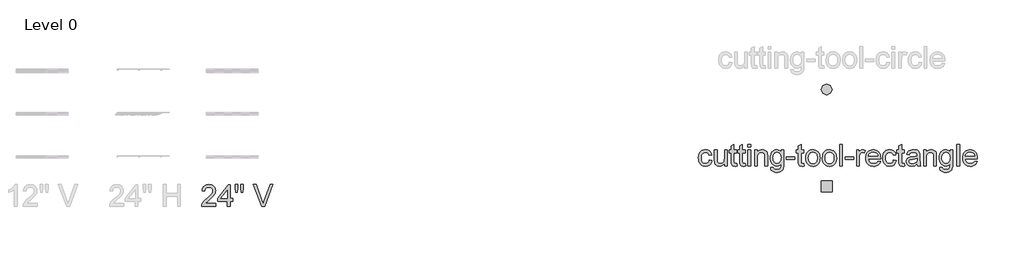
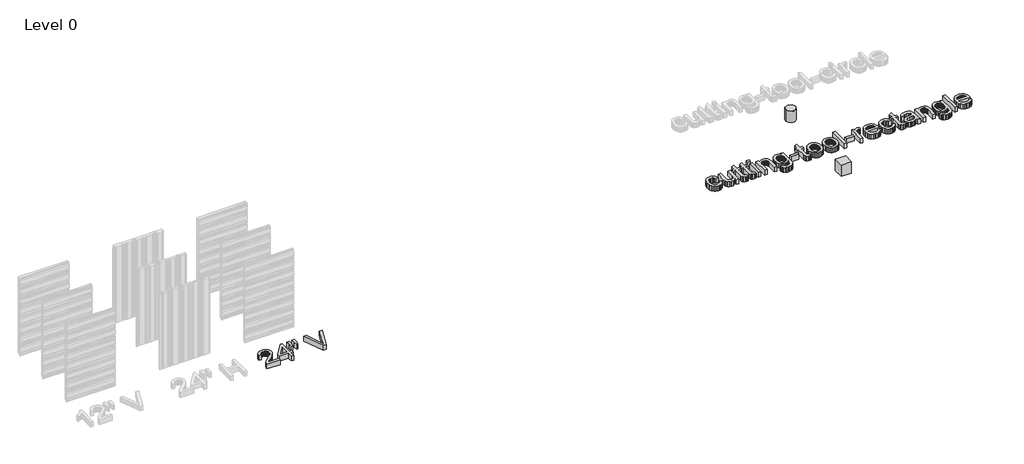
# One storey, part 2 of 3: 4 proxies.
"""IFC4 building model written with IfcOpenShell, lengths in millimetres."""

import ifcopenshell
import ifcopenshell.guid

model = None  # the IFC model being written
_history = None  # IfcOwnerHistory: only IFC2X3 demands one
_inside = {}  # id of a spatial element -> (the spatial element, [elements in it])
_under = {}  # id of a project, library or spatial element -> (it, [spatial elements below it])
_declared = {}  # id of a project -> (the project, [libraries it declares])
_typed = {}  # id of a type object -> (the type object, [elements of that type])
_made_of = {}  # id of a material, layer set ... -> (it, [elements and type objects made of it])


def new_model(schema):
    """Start an empty IFC model of exactly this schema.

    Asked for "IFC4X3", IfcOpenShell would pick the latest addendum, in which some entities
    have other attributes; the version numbers below select the first issue.
    IFC2X3 requires an IfcOwnerHistory on every rooted entity: one is made here for all.
    """
    global model, _history
    if schema == "IFC4X3":
        model = ifcopenshell.file(schema_version=(4, 3, 0, 0))
    else:
        model = ifcopenshell.file(schema=schema)
    _inside.clear()
    _under.clear()
    _declared.clear()
    _typed.clear()
    _made_of.clear()
    _history = None
    if model.schema == "IFC2X3":
        org = make("IfcOrganization", Name="unknown")
        user = make(
            "IfcPersonAndOrganization",
            ThePerson=make("IfcPerson", FamilyName="unknown"),
            TheOrganization=org,
        )
        app = make(
            "IfcApplication",
            ApplicationDeveloper=org,
            Version="unknown",
            ApplicationFullName="unknown",
            ApplicationIdentifier="unknown",
        )
        _history = make(
            "IfcOwnerHistory",
            OwningUser=user,
            OwningApplication=app,
            ChangeAction="ADDED",
            CreationDate=0,
        )
    return model


def make(cls, **values):
    """One entity of the class cls with the attributes given. An attribute that is None is left unset."""
    return model.create_entity(
        cls, **{name: value for name, value in values.items() if value is not None}
    )


def rooted(cls, **values):
    """An entity with a GlobalId (a new one), such as an element, a storey or a relation."""
    return make(cls, GlobalId=ifcopenshell.guid.new(), OwnerHistory=_history, **values)


def si_unit(unit_type, name, prefix=None):
    """IfcSIUnit, for example si_unit("LENGTHUNIT", "METRE", prefix="MILLI")."""
    return make("IfcSIUnit", UnitType=unit_type, Prefix=prefix, Name=name)


def assignment(units):
    """IfcUnitAssignment: the units of a project."""
    return None if units is None else make("IfcUnitAssignment", Units=units)


def point(xyz):
    """IfcCartesianPoint."""
    return None if xyz is None else make("IfcCartesianPoint", Coordinates=xyz)


def direction(xyz):
    """IfcDirection."""
    return None if xyz is None else make("IfcDirection", DirectionRatios=xyz)


def frame(location, z_axis=None, x_axis=None):
    """IfcAxis2Placement3D, a coordinate frame: its origin and axes. An axis left out is left unset."""
    return make(
        "IfcAxis2Placement3D",
        Location=point(location),
        Axis=direction(z_axis),
        RefDirection=direction(x_axis),
    )


def frame_2d(location, x_axis=None):
    """IfcAxis2Placement2D, a coordinate frame in the plane: its origin and x axis."""
    return make(
        "IfcAxis2Placement2D", Location=point(location), RefDirection=direction(x_axis)
    )


def origin():
    """The frame at (0, 0, 0) with its axes left unset."""
    return frame((0.0, 0.0, 0.0))


def origin_with_axes():
    """The frame at (0, 0, 0) with the z axis (0, 0, 1) and the x axis (1, 0, 0) written out."""
    return frame((0.0, 0.0, 0.0), z_axis=(0.0, 0.0, 1.0), x_axis=(1.0, 0.0, 0.0))


def origin_2d():
    """The frame at (0, 0) in the plane with its x axis left unset."""
    return frame_2d((0.0, 0.0))


def place(relative_to, where):
    """IfcLocalPlacement: puts the frame where relative to a parent placement (None: the world)."""
    return make(
        "IfcLocalPlacement", PlacementRelTo=relative_to, RelativePlacement=where
    )


def context(
    kind, dimensions, precision=None, world=None, true_north=None, identifier=None
):
    """IfcGeometricRepresentationContext, for example the 3D "Model" context."""
    return make(
        "IfcGeometricRepresentationContext",
        ContextIdentifier=identifier,
        ContextType=kind,
        CoordinateSpaceDimension=dimensions,
        Precision=precision,
        WorldCoordinateSystem=world,
        TrueNorth=true_north,
    )


def project(units=None, contexts=None):
    """IfcProject with its units and contexts."""
    return rooted(
        "IfcProject",
        Name="project",
        RepresentationContexts=contexts,
        UnitsInContext=assignment(units),
    )


def spatial(cls, under=None, at=None, **own):
    """A site, building, storey or space (cls), placed at a placement, below another one or the project."""
    s = rooted(cls, ObjectPlacement=at, **own)
    if under is not None:
        _under.setdefault(under.id(), (under, []))[1].append(s)
    return s


def polyline(points):
    """IfcPolyline through the points."""
    return make("IfcPolyline", Points=[point(p) for p in points])


def circle_curve(where, radius):
    """IfcCircle in the frame where."""
    return make("IfcCircle", Position=where, Radius=radius)


def trimmed(basis, trim1, trim2, sense, master):
    """IfcTrimmedCurve: the piece of a basis curve between two trims."""
    return make(
        "IfcTrimmedCurve",
        BasisCurve=basis,
        Trim1=trim1,
        Trim2=trim2,
        SenseAgreement=sense,
        MasterRepresentation=master,
    )


def segment(curve, same_sense, transition):
    """IfcCompositeCurveSegment."""
    return make(
        "IfcCompositeCurveSegment",
        Transition=transition,
        SameSense=same_sense,
        ParentCurve=curve,
    )


def composite_curve(segments, self_intersect=None):
    """IfcCompositeCurve: segments joined end to end."""
    return make("IfcCompositeCurve", Segments=segments, SelfIntersect=self_intersect)


def outline(outer, holes=None, kind="AREA"):
    """IfcArbitraryClosedProfileDef: a profile drawn as a closed curve; with holes, ...WithVoids."""
    if holes is None:
        return make("IfcArbitraryClosedProfileDef", ProfileType=kind, OuterCurve=outer)
    return make(
        "IfcArbitraryProfileDefWithVoids",
        ProfileType=kind,
        OuterCurve=outer,
        InnerCurves=holes,
    )


def extrude(swept, where, along, depth):
    """IfcExtrudedAreaSolid: the profile swept, set in the frame where, extruded along a direction by depth."""
    return make(
        "IfcExtrudedAreaSolid",
        SweptArea=swept,
        Position=where,
        ExtrudedDirection=direction(along),
        Depth=depth,
    )


def shape(context_of_items, identifier, shape_type, items):
    """IfcShapeRepresentation: the items that make up one representation, for example the "Body"."""
    return make(
        "IfcShapeRepresentation",
        ContextOfItems=context_of_items,
        RepresentationIdentifier=identifier,
        RepresentationType=shape_type,
        Items=items,
    )


def source(mapping_origin, context_of_items, identifier, shape_type, items):
    """IfcRepresentationMap: a shape defined once, which mapped items show again and again."""
    return make(
        "IfcRepresentationMap",
        MappingOrigin=mapping_origin,
        MappedRepresentation=shape(context_of_items, identifier, shape_type, items),
    )


def transform(
    local_origin,
    x_axis=None,
    y_axis=None,
    z_axis=None,
    scale=None,
    scale2=None,
    scale3=None,
    uniform=True,
):
    """IfcCartesianTransformationOperator3D, or its non-uniform kind. x_axis, y_axis, z_axis: its Axis1, 2, 3."""
    if uniform:
        return make(
            "IfcCartesianTransformationOperator3D",
            Axis1=direction(x_axis),
            Axis2=direction(y_axis),
            LocalOrigin=point(local_origin),
            Scale=scale,
            Axis3=direction(z_axis),
        )
    return make(
        "IfcCartesianTransformationOperator3DnonUniform",
        Axis1=direction(x_axis),
        Axis2=direction(y_axis),
        LocalOrigin=point(local_origin),
        Scale=scale,
        Axis3=direction(z_axis),
        Scale2=scale2,
        Scale3=scale3,
    )


def mapped(mapping_source, mapping_target):
    """IfcMappedItem: shows the shape of a source again, moved by a transform."""
    return make(
        "IfcMappedItem", MappingSource=mapping_source, MappingTarget=mapping_target
    )


def made_of(thing, what):
    """Note that an element or type object is made of a material, layer set ...; save() writes the relation."""
    if what is not None:
        _made_of.setdefault(what.id(), (what, []))[1].append(thing)
    return thing


def element(
    cls,
    number,
    at=None,
    inside=None,
    cuts=None,
    type_object=None,
    material=None,
    context=None,
    identifier="Body",
    shape_type=None,
    held_by="IfcProductDefinitionShape",
    body=None,
    shapes=None,
    **own,
):
    """One element of the class cls, such as IfcWall. Its Tag is "e" and its number.

    at: its placement. inside: the storey or other place that contains it. cuts: it is an
    opening in that element (IfcRelVoidsElement). A single representation is given by context,
    identifier, shape_type and body (its items); several are given by shapes. held_by: the class
    of the entity that holds the representations. save() writes the other relations.
    """
    e = rooted(cls, Tag="e%d" % number, ObjectPlacement=at, **own)
    if body is not None:
        shapes = [shape(context, identifier, shape_type, body)]
    if shapes is not None:
        e.Representation = make(held_by, Representations=shapes)
    if inside is not None:
        _inside.setdefault(inside.id(), (inside, []))[1].append(e)
    if cuts is not None:
        rooted(
            "IfcRelVoidsElement", RelatingBuildingElement=cuts, RelatedOpeningElement=e
        )
    if type_object is not None:
        _typed.setdefault(type_object.id(), (type_object, []))[1].append(e)
    return made_of(e, material)


def aggregate(whole, parts):
    """IfcRelAggregates: a whole, such as a stair, and the parts it consists of."""
    return rooted("IfcRelAggregates", RelatingObject=whole, RelatedObjects=parts)


def save(model, path):
    """Write the relations noted so far, then the file.

    IfcRelAggregates (storeys below a building ...), IfcRelContainedInSpatialStructure (elements
    in a storey), IfcRelDefinesByType, IfcRelAssociatesMaterial and IfcRelDeclares: one each for
    every whole, place, type object, material and project.
    """
    for whole, parts in _under.values():
        aggregate(whole, parts)
    for where, things in _inside.values():
        rooted(
            "IfcRelContainedInSpatialStructure",
            RelatedElements=things,
            RelatingStructure=where,
        )
    for kind, things in _typed.values():
        rooted("IfcRelDefinesByType", RelatedObjects=things, RelatingType=kind)
    for what, things in _made_of.values():
        rooted("IfcRelAssociatesMaterial", RelatedObjects=things, RelatingMaterial=what)
    for by, libraries in _declared.values():
        rooted("IfcRelDeclares", RelatingContext=by, RelatedDefinitions=libraries)
    model.write(path)


def kingspan_ks_cutting_tool_circle_cutting_tool_circle_f6fe257a(model_context):
    return source(origin(), model_context, "Body", "SweptSolid", [
        extrude(outline(composite_curve([segment(trimmed(circle_curve(origin_2d(), 152.4), [point((-152.4, 0.0))], [point((152.4, 0.0))], False, "CARTESIAN"), True, "CONTINUOUS"), segment(trimmed(circle_curve(origin_2d(), 152.4), [point((152.4, 0.0))], [point((-152.4, 0.0))], False, "CARTESIAN"), True, "CONTINUOUS")], self_intersect=False)), frame((0.0, 0.0, -254.0), z_axis=(0.0, 0.0, 1.0), x_axis=(1.0, 0.0, 0.0)), (0.0, 0.0, 1.0), 355.6),
    ])


def kingspan_ks_cutting_tool_rectangle_cutting_tool_rectangle_f435e5aa(model_context):
    return source(origin(), model_context, "Body", "SweptSolid", [
        extrude(outline(polyline([(152.4, 152.4), (152.4, -152.4), (-152.4, -152.4), (-152.4, 152.4), (152.4, 152.4)])), frame((0.0, 0.0, -254.0), z_axis=(0.0, 0.0, 1.0), x_axis=(1.0, 0.0, 0.0)), (0.0, 0.0, 1.0), 355.6),
    ])


model = new_model("IFC4")

# Units and contexts
model_context = context("Model", 3, world=origin())
ifc_project = project(units=[si_unit("LENGTHUNIT", "METRE", prefix="MILLI")], contexts=[model_context])

# Site, building, storey
site = spatial("IfcSite", under=ifc_project)
building = spatial("IfcBuilding", under=site)
storey = spatial("IfcBuildingStorey", under=building, Name="Level 0", Elevation=0.0)

# Proxies
placement = place(None, origin())
element("IfcBuildingElementProxy", 1, Name="24\" Arial", ObjectType="24\" Arial", at=placement, inside=storey, context=model_context, shape_type="SweptSolid", body=[
    extrude(outline(polyline([(-22407.9539818, 9485.5823155), (-22407.9539818, 9409.440542), (-22807.6982928, 9409.440542), (-22806.0252557, 9436.2463129), (-22799.5190007, 9461.9367257), (-22780.7438075, 9502.9633112), (-22753.2688218, 9542.7630029), (-22713.5248981, 9584.4216246), (-22657.9428905, 9631.0250001), (-22575.7781838, 9704.0065926), (-22526.4793597, 9757.8783845), (-22512.100536, 9779.8881159), (-22501.8299477, 9801.6004185), (-22495.6675947, 9823.0152923), (-22493.613477, 9844.1327373), (-22495.5514115, 9864.0000519), (-22501.3652152, 9882.259392), (-22511.0548879, 9898.9107576), (-22524.6204297, 9913.9541488), (-22541.3089739, 9926.4136272), (-22560.3676539, 9935.3132547), (-22581.7964697, 9940.6530311), (-22605.5954213, 9942.4329566), (-22630.6677399, 9940.6948571), (-22653.0910832, 9935.4805584), (-22672.8654513, 9926.7900605), (-22689.990844, 9914.6233636), (-22703.84452, 9899.3894321), (-22713.8037376, 9881.4972307), (-22719.8684968, 9860.9467593), (-22722.0387975, 9837.7380181), (-22798.1805711, 9847.2557397), (-22791.6324901, 9886.562815), (-22779.721396, 9920.906547), (-22762.4472888, 9950.286936), (-22739.8101685, 9974.7039817), (-22712.3305355, 9993.8974342), (-22680.5288903, 10007.6070431), (-22644.4052327, 10015.8328084), (-22603.9595628, 10018.5747302), (-22563.1514016, 10015.5260849), (-22526.8325564, 10006.3801492), (-22495.0030272, 9991.1369231), (-22467.662814, 9969.7964065), (-22445.7042031, 9943.93869), (-22430.0194811, 9915.143864), (-22420.6086479, 9883.4119286), (-22417.4717035, 9848.7428838), (-22420.8549561, 9812.3264447), (-22431.004714, 9776.5420419), (-22449.0177459, 9740.1441921), (-22475.9908204, 9701.8874124), (-22518.9878717, 9656.2135018), (-22585.0728339, 9597.5642598), (-22672.6656163, 9524.3224171), (-22707.018643, 9485.5823155), (-22407.9539818, 9485.5823155)])), origin_with_axes(), (0.0, 0.0, 1.0), 152.4),
    extrude(outline(polyline([(-22084.3514443, 9409.440542), (-22084.3514443, 9552.2063674), (-22360.3653733, 9552.2063674), (-22360.3653733, 9628.3481409), (-22065.316001, 10009.0570085), (-22008.2096708, 10009.0570085), (-22008.2096708, 9628.3481409), (-21932.0678973, 9628.3481409), (-21932.0678973, 9552.2063674), (-22008.2096708, 9552.2063674), (-22008.2096708, 9409.440542), (-22084.3514443, 9409.440542)]), holes=[polyline([(-22084.3514443, 9628.3481409), (-22084.3514443, 9863.6143239), (-22266.6753005, 9628.3481409), (-22084.3514443, 9628.3481409)])]), origin_with_axes(), (0.0, 0.0, 1.0), 152.4),
    extrude(outline(polyline([(-21846.8545453, 9799.6671313), (-21865.4438455, 9917.3002228), (-21865.4438455, 10018.5747302), (-21789.302072, 10018.5747302), (-21789.302072, 9917.3002228), (-21805.9580849, 9799.6671313), (-21846.8545453, 9799.6671313)])), origin_with_axes(), (0.0, 0.0, 1.0), 152.4),
    extrude(outline(polyline([(-21695.0171415, 9799.6671313), (-21713.1602984, 9917.3002228), (-21713.1602984, 10018.5747302), (-21637.0185249, 10018.5747302), (-21637.0185249, 9917.3002228), (-21654.8642531, 9799.6671313), (-21695.0171415, 9799.6671313)])), origin_with_axes(), (0.0, 0.0, 1.0), 152.4),
    extrude(outline(polyline([(-21114.4361184, 9409.440542), (-21356.8405927, 10018.5747302), (-21275.3451007, 10018.5747302), (-21113.0976888, 9579.7185316), (-21080.2318061, 9480.8234547), (-21047.8120666, 9579.7185316), (-20885.1185114, 10018.5747302), (-20803.6230195, 10018.5747302), (-21035.7662001, 9409.440542), (-21114.4361184, 9409.440542)])), origin_with_axes(), (0.0, 0.0, 1.0), 152.4),
])
element("IfcBuildingElementProxy", 2, Name="24\" Arial", ObjectType="24\" Arial", at=placement, inside=storey, context=model_context, shape_type="SweptSolid", body=[
    extrude(outline(polyline([(-8540.2972792, 10707.5765962), (-8464.1555057, 10698.0588745), (-8472.4370389, 10662.1304046), (-8485.3844865, 10630.338054), (-8502.9978484, 10602.6818226), (-8525.2771246, 10579.1617106), (-8551.2835556, 10560.3911647), (-8580.0783816, 10546.983632), (-8611.6616026, 10538.9391123), (-8646.0332186, 10536.2576058), (-8688.7374884, 10539.9987025), (-8727.0267994, 10551.2219924), (-8760.9011517, 10569.9274757), (-8790.3605451, 10596.1151524), (-8814.2059699, 10629.2924058), (-8831.2384162, 10668.9666197), (-8841.457884, 10715.1377941), (-8844.8643733, 10767.8059288), (-8839.0459223, 10835.5639279), (-8831.7728586, 10866.0550275), (-8821.5905694, 10894.2875272), (-8808.4293449, 10919.6944532), (-8792.2194752, 10941.7088319), (-8772.9609602, 10960.3306634), (-8750.6538, 10975.5599475), (-8726.3064641, 10987.4013317), (-8700.927422, 10995.8594633), (-8674.5166738, 11000.9343423), (-8647.0742194, 11002.6259686), (-8613.2928137, 11000.3023061), (-8582.7366515, 10993.3313185), (-8555.4057329, 10981.7130059), (-8531.3000579, 10965.4473682), (-8510.8285911, 10944.9061915), (-8494.4002971, 10920.4612618), (-8482.0151758, 10892.112579), (-8473.6732274, 10859.8601432), (-8549.8150009, 10850.3424215), (-8563.6268509, 10883.561501), (-8585.1346712, 10907.3743945), (-8613.1487466, 10921.7067449), (-8646.4793618, 10926.4841951), (-8672.3510203, 10924.1326486), (-8695.6852394, 10917.0780092), (-8716.4820189, 10905.3202768), (-8734.741359, 10888.8594515), (-8749.6081518, 10867.3144526), (-8760.2272896, 10840.3041995), (-8766.5987722, 10807.828692), (-8768.7225997, 10769.8879304), (-8766.6452454, 10731.3755478), (-8760.4131826, 10698.523607), (-8750.0264111, 10671.3321082), (-8735.484931, 10649.8010513), (-8717.5880823, 10633.4378198), (-8697.1352048, 10621.7497973), (-8674.1262985, 10614.7369838), (-8648.5613634, 10612.3993793), (-8609.1334577, 10618.2364196), (-8592.0824222, 10625.5327199), (-8576.8066647, 10635.7475403), (-8563.7337394, 10648.9924167), (-8553.2912, 10665.3788848), (-8545.4790466, 10684.9069446), (-8540.2972792, 10707.5765962)])), origin_with_axes(), (0.0, 0.0, 1.0), 152.4),
    extrude(outline(polyline([(-8111.9998032, 10545.7753275), (-8111.9998032, 10622.660673), (-8139.549146, 10584.8593311), (-8171.6342781, 10557.8583726), (-8208.2551995, 10541.6577975), (-8249.41191, 10536.2576058), (-8286.4975639, 10540.049823), (-8321.0178943, 10551.4264747), (-8349.980024, 10568.5286309), (-8370.3910756, 10589.4973615), (-8384.1285684, 10614.9647027), (-8393.0700218, 10645.5626908), (-8397.5314538, 10716.3507459), (-8397.5314538, 10993.1082469), (-8321.3896803, 10993.1082469), (-8321.3896803, 10752.1909166), (-8320.2371437, 10704.0074506), (-8316.7795339, 10674.5619991), (-8305.6817217, 10648.667104), (-8286.6648676, 10628.9810351), (-8260.9930441, 10616.5447932), (-8229.9303235, 10612.3993793), (-8197.0830301, 10616.6377397), (-8166.3549169, 10629.3528211), (-8141.0177007, 10649.3734974), (-8124.3430985, 10675.5286427), (-8115.085627, 10711.3502241), (-8111.9998032, 10760.3702087), (-8111.9998032, 10993.1082469), (-8035.8580296, 10993.1082469), (-8035.8580296, 10545.7753275), (-8111.9998032, 10545.7753275)])), origin_with_axes(), (0.0, 0.0, 1.0), 152.4),
    extrude(outline(polyline([(-7769.3618223, 10609.2763769), (-7759.8441006, 10543.5446115), (-7789.9959455, 10538.0793572), (-7816.8017164, 10536.2576058), (-7853.3482805, 10539.4177868), (-7880.6001946, 10548.8983299), (-7899.8587096, 10563.5095198), (-7912.4250765, 10582.0616414), (-7919.3402961, 10613.9237019), (-7921.6453694, 10668.4647086), (-7921.6453694, 10916.9664734), (-7978.7516995, 10916.9664734), (-7978.7516995, 10993.1082469), (-7921.6453694, 10993.1082469), (-7921.6453694, 11101.8184743), (-7845.5035958, 11146.5815091), (-7845.5035958, 10993.1082469), (-7769.3618223, 10993.1082469), (-7769.3618223, 10916.9664734), (-7845.5035958, 10916.9664734), (-7845.5035958, 10670.6954247), (-7841.488307, 10631.4348227), (-7828.4757969, 10617.5300262), (-7817.4895205, 10613.682041), (-7802.5251338, 10612.3993793), (-7769.3618223, 10609.2763769)])), origin_with_axes(), (0.0, 0.0, 1.0), 152.4),
    extrude(outline(polyline([(-7531.4187801, 10609.2763769), (-7521.9010584, 10543.5446115), (-7552.0529033, 10538.0793572), (-7578.8586741, 10536.2576058), (-7615.4052383, 10539.4177868), (-7642.6571523, 10548.8983299), (-7661.9156673, 10563.5095198), (-7674.4820342, 10582.0616414), (-7681.3972539, 10613.9237019), (-7683.7023271, 10668.4647086), (-7683.7023271, 10916.9664734), (-7740.8086573, 10916.9664734), (-7740.8086573, 10993.1082469), (-7683.7023271, 10993.1082469), (-7683.7023271, 11101.8184743), (-7607.5605536, 11146.5815091), (-7607.5605536, 10993.1082469), (-7531.4187801, 10993.1082469), (-7531.4187801, 10916.9664734), (-7607.5605536, 10916.9664734), (-7607.5605536, 10670.6954247), (-7603.5452648, 10631.4348227), (-7590.5327546, 10617.5300262), (-7579.5464782, 10613.682041), (-7564.5820916, 10612.3993793), (-7531.4187801, 10609.2763769)])), origin_with_axes(), (0.0, 0.0, 1.0), 152.4),
    extrude(outline(polyline([(-7455.2770066, 11078.7677421), (-7455.2770066, 11154.9095156), (-7379.1352331, 11154.9095156), (-7379.1352331, 11078.7677421), (-7455.2770066, 11078.7677421)])), origin_with_axes(), (0.0, 0.0, 1.0), 152.4),
    extrude(outline(polyline([(-7455.2770066, 10545.7753275), (-7455.2770066, 10993.1082469), (-7379.1352331, 10993.1082469), (-7379.1352331, 10545.7753275), (-7455.2770066, 10545.7753275)])), origin_with_axes(), (0.0, 0.0, 1.0), 152.4),
    extrude(outline(polyline([(-7264.9225728, 10545.7753275), (-7264.9225728, 10993.1082469), (-7188.7807993, 10993.1082469), (-7188.7807993, 10930.6481983), (-7162.3282251, 10962.1384728), (-7130.5591111, 10984.631526), (-7093.4734573, 10998.1273579), (-7051.0712636, 11002.6259686), (-7013.5394665, 10999.001055), (-6979.1678505, 10988.1263144), (-6950.5031496, 10971.3587657), (-6930.092098, 10950.0554277), (-6916.2430694, 10924.2720683), (-6907.2644374, 10894.0644556), (-6903.2491486, 10820.4508269), (-6903.2491486, 10545.7753275), (-6979.3909221, 10545.7753275), (-6979.3909221, 10810.1895332), (-6981.5844595, 10849.5616709), (-6988.1650718, 10877.557157), (-7000.3038848, 10897.6150119), (-7019.1720245, 10913.1742561), (-7043.356704, 10923.1567103), (-7071.4451366, 10926.4841951), (-7094.5655786, 10924.6159704), (-7116.0408677, 10919.0112964), (-7135.8710036, 10909.6701731), (-7154.0559865, 10896.5926004), (-7169.2480921, 10878.2914344), (-7180.0995961, 10853.279531), (-7186.6104985, 10821.5568902), (-7188.7807993, 10783.1235121), (-7188.7807993, 10545.7753275), (-7264.9225728, 10545.7753275)])), origin_with_axes(), (0.0, 0.0, 1.0), 152.4),
    extrude(outline(polyline([(-6817.5896534, 10507.7044407), (-6741.4478798, 10498.186719), (-6733.0455162, 10474.3924148), (-6716.7612892, 10458.0338307), (-6684.7505143, 10445.3187493), (-6642.8502317, 10441.0803889), (-6598.1615541, 10445.8764283), (-6580.1113436, 10451.8714776), (-6564.9238854, 10460.2645467), (-6541.8731532, 10483.3152789), (-6527.745285, 10514.09916), (-6523.6184604, 10546.8535069), (-6522.540281, 10602.8816576), (-6547.8774971, 10577.8976382), (-6576.1518227, 10560.05191), (-6607.3632577, 10549.3444731), (-6641.5118021, 10545.7753275), (-6683.258723, 10549.9300361), (-6720.0144167, 10562.3941618), (-6751.7788834, 10583.1677048), (-6778.552123, 10612.2506649), (-6799.7950458, 10647.1427813), (-6814.968562, 10685.3437932), (-6824.0726718, 10726.8537005), (-6827.1073751, 10771.6725032), (-6821.6607101, 10833.1473189), (-6805.3207152, 10889.6773807), (-6793.2097862, 10915.1679586), (-6778.6636588, 10937.5820073), (-6761.6823331, 10956.9195268), (-6742.2658091, 10973.1805171), (-6720.7254575, 10986.0629021), (-6697.3726491, 10995.2646057), (-6672.207384, 11000.7856279), (-6645.2296621, 11002.6259686), (-6609.6218577, 10998.4619653), (-6577.3043593, 10985.9699556), (-6548.2771671, 10965.1499394), (-6522.540281, 10936.0019168), (-6522.540281, 10993.1082469), (-6446.3985075, 10993.1082469), (-6446.3985075, 10606.8969465), (-6451.6035115, 10517.7240735), (-6458.1097666, 10484.5561147), (-6467.2185237, 10459.0004743), (-6479.1482071, 10438.3895877), (-6494.117241, 10420.0558904), (-6512.1256256, 10403.9993824), (-6533.1733607, 10390.2200636), (-6557.0466694, 10379.15943), (-6583.5317749, 10371.2589774), (-6612.628677, 10366.5187059), (-6644.3373757, 10364.9386154), (-6681.6414539, 10367.1646841), (-6715.1811987, 10373.8428902), (-6744.9566103, 10384.9732336), (-6770.9676885, 10400.5557145), (-6791.978245, 10420.6089221), (-6806.7520914, 10445.1514456), (-6815.2892275, 10474.1832852), (-6817.5896534, 10507.7044407)]), holes=[polyline([(-6750.9656015, 10776.8775073), (-6748.9347205, 10739.2295271), (-6742.8420774, 10707.0375065), (-6732.6876721, 10680.3014455), (-6718.4715048, 10659.0213441), (-6701.188103, 10642.7882378), (-6681.8319942, 10631.1931618), (-6660.4031784, 10624.2361162), (-6636.9016557, 10621.917101), (-6613.6324992, 10624.2221742), (-6592.3059245, 10631.1373939), (-6572.9219318, 10642.66276), (-6555.4805209, 10658.7982725), (-6541.0691659, 10679.8692443), (-6530.775341, 10706.200988), (-6524.599046, 10737.7935036), (-6522.540281, 10774.6467912), (-6524.6594612, 10809.9618142), (-6531.0170019, 10840.6573962), (-6541.612903, 10866.733537), (-6556.4471645, 10888.1902367), (-6574.2650087, 10904.9438435), (-6593.8116579, 10916.9107055), (-6615.0871119, 10924.0908227), (-6638.0913709, 10926.4841951), (-6660.7099019, 10924.1280013), (-6681.571744, 10917.0594199), (-6700.6768972, 10905.2784509), (-6718.0253616, 10888.7850943), (-6732.4367166, 10867.6537073), (-6742.7305416, 10841.9586472), (-6748.9068365, 10811.6999138), (-6750.9656015, 10776.8775073)])]), origin_with_axes(), (0.0, 0.0, 1.0), 152.4),
    extrude(outline(polyline([(-6370.256734, 10726.6120396), (-6370.256734, 10802.7538131), (-6132.3136917, 10802.7538131), (-6132.3136917, 10726.6120396), (-6370.256734, 10726.6120396)])), origin_with_axes(), (0.0, 0.0, 1.0), 152.4),
    extrude(outline(polyline([(-5884.8529278, 10609.2763769), (-5875.3352061, 10543.5446115), (-5905.487051, 10538.0793572), (-5932.2928218, 10536.2576058), (-5968.839386, 10539.4177868), (-5996.0913, 10548.8983299), (-6015.349815, 10563.5095198), (-6027.9161819, 10582.0616414), (-6034.8314016, 10613.9237019), (-6037.1364748, 10668.4647086), (-6037.1364748, 10916.9664734), (-6094.242805, 10916.9664734), (-6094.242805, 10993.1082469), (-6037.1364748, 10993.1082469), (-6037.1364748, 11101.8184743), (-5960.9947013, 11146.5815091), (-5960.9947013, 10993.1082469), (-5884.8529278, 10993.1082469), (-5884.8529278, 10916.9664734), (-5960.9947013, 10916.9664734), (-5960.9947013, 10670.6954247), (-5956.9794125, 10631.4348227), (-5943.9669023, 10617.5300262), (-5932.9806259, 10613.682041), (-5918.0162393, 10612.3993793), (-5884.8529278, 10609.2763769)])), origin_with_axes(), (0.0, 0.0, 1.0), 152.4),
    extrude(outline(polyline([(-5827.7465976, 10769.4417872), (-5823.6290677, 10827.3753412), (-5811.2764777, 10877.2969068), (-5790.6888277, 10919.206484), (-5761.8661178, 10953.1040729), (-5732.8482202, 10974.7699023), (-5700.818856, 10990.2454947), (-5665.7780252, 10999.5308501), (-5627.7257278, 11002.6259686), (-5585.7185567, 10998.856988), (-5547.7359691, 10987.5500461), (-5513.777965, 10968.7051431), (-5483.8445444, 10942.3222788), (-5459.4135566, 10909.2937397), (-5441.9628511, 10870.5118122), (-5431.4924278, 10825.9764963), (-5428.0022867, 10775.687792), (-5429.5451986, 10734.9307514), (-5434.1739343, 10698.7652679), (-5441.8884939, 10667.1913416), (-5452.6888773, 10640.2089724), (-5466.4403121, 10616.9026373), (-5483.0080259, 10596.3568133), (-5502.3920187, 10578.5715003), (-5524.5922904, 10563.5466984), (-5548.7444386, 10551.6077204), (-5573.984061, 10543.079879), (-5600.3111573, 10537.9631741), (-5627.7257278, 10536.2576058), (-5670.3463457, 10540.0126444), (-5708.68213, 10551.2777603), (-5742.7330806, 10570.0529535), (-5772.4991975, 10596.338224), (-5796.6699351, 10629.6874285), (-5813.9347476, 10669.6544238), (-5824.2936351, 10716.2392101), (-5827.7465976, 10769.4417872)]), holes=[polyline([(-5751.6048241, 10769.5905016), (-5749.4019921, 10732.6582095), (-5742.7934958, 10700.6799658), (-5731.7793355, 10673.6557707), (-5716.359511, 10651.5856241), (-5697.6029071, 10634.441642), (-5676.5784086, 10622.1959405), (-5653.2860155, 10614.8485196), (-5627.7257278, 10612.3993793), (-5602.2955651, 10614.8624616), (-5579.0961185, 10622.2517084), (-5558.1273879, 10634.5671198), (-5539.3893733, 10651.8086957), (-5523.9695488, 10674.0972666), (-5512.9553885, 10701.5536629), (-5506.3468923, 10734.1778848), (-5504.1440602, 10771.969932), (-5506.3608342, 10807.7310982), (-5513.0111564, 10838.8728233), (-5524.0950266, 10865.3951074), (-5539.6124449, 10887.2979503), (-5558.4201694, 10904.4419324), (-5579.374958, 10916.6876339), (-5602.4768108, 10924.0350548), (-5627.7257278, 10926.4841951), (-5653.2860155, 10924.0443494), (-5676.5784086, 10916.7248125), (-5697.6029071, 10904.5255842), (-5716.359511, 10887.4466647), (-5731.7793355, 10865.4415806), (-5742.7934958, 10838.4638587), (-5749.4019921, 10806.5134991), (-5751.6048241, 10769.5905016)])]), origin_with_axes(), (0.0, 0.0, 1.0), 152.4),
    extrude(outline(polyline([(-5361.3782348, 10769.4417872), (-5357.2607049, 10827.3753412), (-5344.9081149, 10877.2969068), (-5324.320465, 10919.206484), (-5295.497755, 10953.1040729), (-5266.4798575, 10974.7699023), (-5234.4504933, 10990.2454947), (-5199.4096624, 10999.5308501), (-5161.357365, 11002.6259686), (-5119.3501939, 10998.856988), (-5081.3676063, 10987.5500461), (-5047.4096022, 10968.7051431), (-5017.4761816, 10942.3222788), (-4993.0451939, 10909.2937397), (-4975.5944883, 10870.5118122), (-4965.124065, 10825.9764963), (-4961.6339239, 10775.687792), (-4963.1768358, 10734.9307514), (-4967.8055715, 10698.7652679), (-4975.5201311, 10667.1913416), (-4986.3205145, 10640.2089724), (-5000.0719493, 10616.9026373), (-5016.6396631, 10596.3568133), (-5036.0236559, 10578.5715003), (-5058.2239276, 10563.5466984), (-5082.3760758, 10551.6077204), (-5107.6156982, 10543.079879), (-5133.9427945, 10537.9631741), (-5161.357365, 10536.2576058), (-5203.9779829, 10540.0126444), (-5242.3137672, 10551.2777603), (-5276.3647178, 10570.0529535), (-5306.1308347, 10596.338224), (-5330.3015723, 10629.6874285), (-5347.5663848, 10669.6544238), (-5357.9252723, 10716.2392101), (-5361.3782348, 10769.4417872)]), holes=[polyline([(-5285.2364613, 10769.5905016), (-5283.0336293, 10732.6582095), (-5276.425133, 10700.6799658), (-5265.4109727, 10673.6557707), (-5249.9911482, 10651.5856241), (-5231.2345443, 10634.441642), (-5210.2100458, 10622.1959405), (-5186.9176527, 10614.8485196), (-5161.357365, 10612.3993793), (-5135.9272023, 10614.8624616), (-5112.7277557, 10622.2517084), (-5091.7590251, 10634.5671198), (-5073.0210105, 10651.8086957), (-5057.601186, 10674.0972666), (-5046.5870257, 10701.5536629), (-5039.9785295, 10734.1778848), (-5037.7756974, 10771.969932), (-5039.9924714, 10807.7310982), (-5046.6427936, 10838.8728233), (-5057.7266638, 10865.3951074), (-5073.2440821, 10887.2979503), (-5092.0518066, 10904.4419324), (-5113.0065952, 10916.6876339), (-5136.108448, 10924.0350548), (-5161.357365, 10926.4841951), (-5186.9176527, 10924.0443494), (-5210.2100458, 10916.7248125), (-5231.2345443, 10904.5255842), (-5249.9911482, 10887.4466647), (-5265.4109727, 10865.4415806), (-5276.425133, 10838.4638587), (-5283.0336293, 10806.5134991), (-5285.2364613, 10769.5905016)])]), origin_with_axes(), (0.0, 0.0, 1.0), 152.4),
    extrude(outline(polyline([(-4875.9744287, 10545.7753275), (-4875.9744287, 11154.9095156), (-4799.8326552, 11154.9095156), (-4799.8326552, 10545.7753275), (-4875.9744287, 10545.7753275)])), origin_with_axes(), (0.0, 0.0, 1.0), 152.4),
    extrude(outline(polyline([(-4723.6908816, 10726.6120396), (-4723.6908816, 10802.7538131), (-4485.7478394, 10802.7538131), (-4485.7478394, 10726.6120396), (-4723.6908816, 10726.6120396)])), origin_with_axes(), (0.0, 0.0, 1.0), 152.4),
    extrude(outline(polyline([(-4400.0883442, 10545.7753275), (-4400.0883442, 10993.1082469), (-4333.4642924, 10993.1082469), (-4333.4642924, 10926.9303383), (-4308.8520589, 10965.2986538), (-4286.1731127, 10987.9032428), (-4263.4198093, 10998.9452871), (-4238.5845043, 11002.6259686), (-4200.6623319, 10996.7517497), (-4162.145302, 10979.1290932), (-4187.5754646, 10910.8691829), (-4214.3440568, 10922.580442), (-4241.1126491, 10926.4841951), (-4263.8473632, 10922.7291564), (-4284.1654683, 10911.4640405), (-4300.5798204, 10893.5439552), (-4311.6032754, 10869.8240081), (-4320.8607469, 10827.2916893), (-4323.9465707, 10780.8927961), (-4323.9465707, 10545.7753275), (-4400.0883442, 10545.7753275)])), origin_with_axes(), (0.0, 0.0, 1.0), 152.4),
    extrude(outline(polyline([(-3801.3641642, 10679.0234311), (-3726.7095347, 10669.5057094), (-3738.1558962, 10639.6048201), (-3753.608252, 10613.2544871), (-3773.066602, 10590.4547105), (-3796.5309461, 10571.2054901), (-3823.7596235, 10555.9157907), (-3854.5109734, 10544.9945769), (-3888.7849956, 10538.4418486), (-3926.5816901, 10536.2576058), (-3973.8263965, 10540.0265864), (-4015.9218668, 10551.3335282), (-4052.8681009, 10570.1784313), (-4084.6650988, 10596.5612956), (-4110.2346812, 10629.7478437), (-4128.4986686, 10669.0037983), (-4139.4570611, 10714.3291595), (-4143.1098586, 10765.7239272), (-4139.4198825, 10818.8614417), (-4128.3499542, 10865.6971835), (-4109.9000738, 10906.2311525), (-4084.0702412, 10940.4633488), (-4052.3568951, 10967.659495), (-4016.2564742, 10987.0853136), (-3975.7689784, 10998.7408048), (-3930.8944078, 11002.6259686), (-3887.4651552, 10998.7500995), (-3848.1906113, 10987.1224922), (-3813.0707759, 10967.7431468), (-3782.1056492, 10940.6120632), (-3756.8288483, 10906.4542241), (-3738.7739905, 10865.9946123), (-3727.9410758, 10819.2332277), (-3724.3301042, 10766.1700704), (-3724.7762474, 10745.647483), (-4066.9680851, 10745.647483), (-4062.5577736, 10715.2632718), (-4053.7882712, 10688.6526886), (-4040.659578, 10665.8157334), (-4023.1716938, 10646.752406), (-4002.2912624, 10631.7229568), (-3978.9849273, 10620.987636), (-3953.2526886, 10614.5464435), (-3925.0945461, 10612.3993793), (-3884.5698717, 10616.3774895), (-3850.4399166, 10628.3118203), (-3822.7046808, 10648.9459435), (-3801.3641642, 10679.0234311)]), holes=[polyline([(-4066.9680851, 10821.7892565), (-3800.4718777, 10821.7892565), (-3810.77035, 10862.0165021), (-3819.6281516, 10877.8359965), (-3830.95833, 10890.7927387), (-3851.7225783, 10906.4077509), (-3875.3495789, 10917.561331), (-3901.8393316, 10924.253479), (-3931.1918366, 10926.4841951), (-3957.9650762, 10924.7042696), (-3982.5168944, 10919.3644931), (-4004.8472912, 10910.4648656), (-4024.9562667, 10898.0053872), (-4041.8307039, 10882.5623261), (-4054.457486, 10864.7119506), (-4062.8366131, 10844.4542607), (-4066.9680851, 10821.7892565)])]), origin_with_axes(), (0.0, 0.0, 1.0), 152.4),
    extrude(outline(polyline([(-3362.65668, 10707.5765962), (-3286.5149065, 10698.0588745), (-3294.7964397, 10662.1304046), (-3307.7438873, 10630.338054), (-3325.3572492, 10602.6818226), (-3347.6365255, 10579.1617106), (-3373.6429564, 10560.3911647), (-3402.4377824, 10546.983632), (-3434.0210034, 10538.9391123), (-3468.3926194, 10536.2576058), (-3511.0968892, 10539.9987025), (-3549.3862003, 10551.2219924), (-3583.2605525, 10569.9274757), (-3612.719946, 10596.1151524), (-3636.5653708, 10629.2924058), (-3653.5978171, 10668.9666197), (-3663.8172848, 10715.1377941), (-3667.2237741, 10767.8059288), (-3661.4053231, 10835.5639279), (-3654.1322594, 10866.0550275), (-3643.9499703, 10894.2875272), (-3630.7887458, 10919.6944532), (-3614.578876, 10941.7088319), (-3595.320361, 10960.3306634), (-3573.0132008, 10975.5599475), (-3548.6658649, 10987.4013317), (-3523.2868228, 10995.8594633), (-3496.8760746, 11000.9343423), (-3469.4336202, 11002.6259686), (-3435.6522145, 11000.3023061), (-3405.0960523, 10993.3313185), (-3377.7651337, 10981.7130059), (-3353.6594587, 10965.4473682), (-3333.1879919, 10944.9061915), (-3316.7596979, 10920.4612618), (-3304.3745767, 10892.112579), (-3296.0326282, 10859.8601432), (-3372.1744017, 10850.3424215), (-3385.9862517, 10883.561501), (-3407.494072, 10907.3743945), (-3435.5081474, 10921.7067449), (-3468.8387626, 10926.4841951), (-3494.7104211, 10924.1326486), (-3518.0446402, 10917.0780092), (-3538.8414198, 10905.3202768), (-3557.1007599, 10888.8594515), (-3571.9675527, 10867.3144526), (-3582.5866904, 10840.3041995), (-3588.958173, 10807.828692), (-3591.0820006, 10769.8879304), (-3589.0046463, 10731.3755478), (-3582.7725834, 10698.523607), (-3572.3858119, 10671.3321082), (-3557.8443319, 10649.8010513), (-3539.9474831, 10633.4378198), (-3519.4946056, 10621.7497973), (-3496.4856993, 10614.7369838), (-3470.9207642, 10612.3993793), (-3431.4928586, 10618.2364196), (-3414.441823, 10625.5327199), (-3399.1660656, 10635.7475403), (-3386.0931402, 10648.9924167), (-3375.6506008, 10665.3788848), (-3367.8384475, 10684.9069446), (-3362.65668, 10707.5765962)])), origin_with_axes(), (0.0, 0.0, 1.0), 152.4),
    extrude(outline(polyline([(-3058.089586, 10609.2763769), (-3048.5718643, 10543.5446115), (-3078.7237092, 10538.0793572), (-3105.52948, 10536.2576058), (-3142.0760441, 10539.4177868), (-3169.3279582, 10548.8983299), (-3188.5864732, 10563.5095198), (-3201.1528401, 10582.0616414), (-3208.0680598, 10613.9237019), (-3210.373133, 10668.4647086), (-3210.373133, 10916.9664734), (-3267.4794631, 10916.9664734), (-3267.4794631, 10993.1082469), (-3210.373133, 10993.1082469), (-3210.373133, 11101.8184743), (-3134.2313595, 11146.5815091), (-3134.2313595, 10993.1082469), (-3058.089586, 10993.1082469), (-3058.089586, 10916.9664734), (-3134.2313595, 10916.9664734), (-3134.2313595, 10670.6954247), (-3130.2160706, 10631.4348227), (-3117.2035605, 10617.5300262), (-3106.2172841, 10613.682041), (-3091.2528975, 10612.3993793), (-3058.089586, 10609.2763769)])), origin_with_axes(), (0.0, 0.0, 1.0), 152.4),
    extrude(outline(polyline([(-2696.4161618, 10602.8816576), (-2732.7954222, 10571.6888119), (-2770.252862, 10551.2777603), (-2809.6435891, 10540.0126444), (-2851.8227112, 10536.2576058), (-2885.7249474, 10538.5162058), (-2915.4538857, 10545.2920057), (-2941.0095261, 10556.5850055), (-2962.3918687, 10572.3952053), (-2979.2756005, 10591.7187829), (-2991.335409, 10613.5519159), (-2998.5712941, 10637.8946045), (-3000.9832558, 10664.7468486), (-2997.339753, 10696.3114803), (-2986.4092445, 10724.9761812), (-2969.5487492, 10749.5140574), (-2948.1152861, 10768.6982152), (-2922.9267844, 10783.1978693), (-2894.8011732, 10793.6822346), (-2828.9206934, 10805.1332435), (-2751.0687043, 10817.17911), (-2696.862305, 10831.3069782), (-2696.4161618, 10848.2604199), (-2701.6583444, 10882.2416606), (-2708.2110727, 10894.8266169), (-2717.3848923, 10904.4744637), (-2733.2415654, 10914.1037211), (-2752.5558483, 10920.9817622), (-2801.5572435, 10926.4841951), (-2846.915136, 10922.8221029), (-2878.5913035, 10911.8358265), (-2900.1920703, 10891.5177214), (-2915.3237606, 10859.8601432), (-2991.4655341, 10869.3778649), (-2978.2485417, 10911.0178973), (-2958.5252942, 10943.7350656), (-2930.455451, 10968.7562637), (-2892.1986712, 10987.3083852), (-2845.4094027, 10998.7965727), (-2791.742093, 11002.6259686), (-2740.2683209, 10999.242716), (-2699.464807, 10989.0929581), (-2668.6995152, 10973.8311426), (-2647.3404093, 10955.1117173), (-2633.1753626, 10931.9680386), (-2623.9922483, 10903.4334628), (-2620.2743882, 10836.809411), (-2620.2743882, 10742.0783373), (-2616.4078138, 10609.7968773), (-2610.6823093, 10577.0982983), (-2601.2389449, 10545.7753275), (-2677.3807184, 10545.7753275), (-2689.5752993, 10572.2464909), (-2696.4161618, 10602.8816576)]), holes=[polyline([(-2696.4161618, 10755.1652047), (-2747.5739158, 10742.4873019), (-2819.2542573, 10731.8170436), (-2884.7629511, 10719.4737483), (-2901.8093394, 10711.034206), (-2914.4314742, 10699.3973041), (-2922.2389803, 10685.455329), (-2924.8414823, 10670.1005671), (-2919.1717457, 10647.4587994), (-2902.1625361, 10628.9066779), (-2874.1856393, 10616.5262039), (-2835.6128415, 10612.3993793), (-2794.7163811, 10616.9537579), (-2758.5787815, 10630.6168935), (-2729.2820445, 10650.7491056), (-2708.9081715, 10674.7107135), (-2699.8737716, 10699.3973041), (-2696.862305, 10733.6016164), (-2696.4161618, 10755.1652047)])]), origin_with_axes(), (0.0, 0.0, 1.0), 152.4),
    extrude(outline(polyline([(-2515.5794496, 10545.7753275), (-2515.5794496, 10993.1082469), (-2439.4376761, 10993.1082469), (-2439.4376761, 10930.6481983), (-2412.985102, 10962.1384728), (-2381.215988, 10984.631526), (-2344.1303341, 10998.1273579), (-2301.7281404, 11002.6259686), (-2264.1963434, 10999.001055), (-2229.8247274, 10988.1263144), (-2201.1600265, 10971.3587657), (-2180.7489749, 10950.0554277), (-2166.8999463, 10924.2720683), (-2157.9213143, 10894.0644556), (-2153.9060254, 10820.4508269), (-2153.9060254, 10545.7753275), (-2230.047799, 10545.7753275), (-2230.047799, 10810.1895332), (-2232.2413364, 10849.5616709), (-2238.8219486, 10877.557157), (-2250.9607617, 10897.6150119), (-2269.8289013, 10913.1742561), (-2294.0135809, 10923.1567103), (-2322.1020134, 10926.4841951), (-2345.2224555, 10924.6159704), (-2366.6977445, 10919.0112964), (-2386.5278805, 10909.6701731), (-2404.7128634, 10896.5926004), (-2419.904969, 10878.2914344), (-2430.756473, 10853.279531), (-2437.2673753, 10821.5568902), (-2439.4376761, 10783.1235121), (-2439.4376761, 10545.7753275), (-2515.5794496, 10545.7753275)])), origin_with_axes(), (0.0, 0.0, 1.0), 152.4),
    extrude(outline(polyline([(-2068.2465302, 10507.7044407), (-1992.1047567, 10498.186719), (-1983.702393, 10474.3924148), (-1967.4181661, 10458.0338307), (-1935.4073912, 10445.3187493), (-1893.5071086, 10441.0803889), (-1848.818431, 10445.8764283), (-1830.7682205, 10451.8714776), (-1815.5807623, 10460.2645467), (-1792.53003, 10483.3152789), (-1778.4021619, 10514.09916), (-1774.2753373, 10546.8535069), (-1773.1971579, 10602.8816576), (-1798.534374, 10577.8976382), (-1826.8086996, 10560.05191), (-1858.0201346, 10549.3444731), (-1892.168679, 10545.7753275), (-1933.9155998, 10549.9300361), (-1970.6712936, 10562.3941618), (-2002.4357603, 10583.1677048), (-2029.2089999, 10612.2506649), (-2050.4519226, 10647.1427813), (-2065.6254389, 10685.3437932), (-2074.7295487, 10726.8537005), (-2077.7642519, 10771.6725032), (-2072.317587, 10833.1473189), (-2055.9775921, 10889.6773807), (-2043.8666631, 10915.1679586), (-2029.3205357, 10937.5820073), (-2012.33921, 10956.9195268), (-1992.9226859, 10973.1805171), (-1971.3823343, 10986.0629021), (-1948.029526, 10995.2646057), (-1922.8642609, 11000.7856279), (-1895.886539, 11002.6259686), (-1860.2787345, 10998.4619653), (-1827.9612362, 10985.9699556), (-1798.9340439, 10965.1499394), (-1773.1971579, 10936.0019168), (-1773.1971579, 10993.1082469), (-1697.0553843, 10993.1082469), (-1697.0553843, 10606.8969465), (-1702.2603884, 10517.7240735), (-1708.7666435, 10484.5561147), (-1717.8754005, 10459.0004743), (-1729.8050839, 10438.3895877), (-1744.7741179, 10420.0558904), (-1762.7825024, 10403.9993824), (-1783.8302376, 10390.2200636), (-1807.7035463, 10379.15943), (-1834.1886517, 10371.2589774), (-1863.2855538, 10366.5187059), (-1894.9942526, 10364.9386154), (-1932.2983307, 10367.1646841), (-1965.8380756, 10373.8428902), (-1995.6134871, 10384.9732336), (-2021.6245654, 10400.5557145), (-2042.6351219, 10420.6089221), (-2057.4089682, 10445.1514456), (-2065.9461043, 10474.1832852), (-2068.2465302, 10507.7044407)]), holes=[polyline([(-2001.6224784, 10776.8775073), (-1999.5915974, 10739.2295271), (-1993.4989542, 10707.0375065), (-1983.344549, 10680.3014455), (-1969.1283817, 10659.0213441), (-1951.8449799, 10642.7882378), (-1932.4888711, 10631.1931618), (-1911.0600553, 10624.2361162), (-1887.5585325, 10621.917101), (-1864.289376, 10624.2221742), (-1842.9628014, 10631.1373939), (-1823.5788087, 10642.66276), (-1806.1373978, 10658.7982725), (-1791.7260428, 10679.8692443), (-1781.4322178, 10706.200988), (-1775.2559229, 10737.7935036), (-1773.1971579, 10774.6467912), (-1775.3163381, 10809.9618142), (-1781.6738787, 10840.6573962), (-1792.2697798, 10866.733537), (-1807.1040414, 10888.1902367), (-1824.9218856, 10904.9438435), (-1844.4685347, 10916.9107055), (-1865.7439888, 10924.0908227), (-1888.7482477, 10926.4841951), (-1911.3667787, 10924.1280013), (-1932.2286209, 10917.0594199), (-1951.3337741, 10905.2784509), (-1968.6822385, 10888.7850943), (-1983.0935935, 10867.6537073), (-1993.3874184, 10841.9586472), (-1999.5637134, 10811.6999138), (-2001.6224784, 10776.8775073)])]), origin_with_axes(), (0.0, 0.0, 1.0), 152.4),
    extrude(outline(polyline([(-1582.8427241, 10545.7753275), (-1582.8427241, 11154.9095156), (-1506.7009505, 11154.9095156), (-1506.7009505, 10545.7753275), (-1582.8427241, 10545.7753275)])), origin_with_axes(), (0.0, 0.0, 1.0), 152.4),
    extrude(outline(polyline([(-1079.2957609, 10679.0234311), (-1004.6411314, 10669.5057094), (-1016.087493, 10639.6048201), (-1031.5398488, 10613.2544871), (-1050.9981987, 10590.4547105), (-1074.4625429, 10571.2054901), (-1101.6912203, 10555.9157907), (-1132.4425701, 10544.9945769), (-1166.7165923, 10538.4418486), (-1204.5132869, 10536.2576058), (-1251.7579933, 10540.0265864), (-1293.8534635, 10551.3335282), (-1330.7996976, 10570.1784313), (-1362.5966956, 10596.5612956), (-1388.166278, 10629.7478437), (-1406.4302654, 10669.0037983), (-1417.3886579, 10714.3291595), (-1421.0414553, 10765.7239272), (-1417.3514793, 10818.8614417), (-1406.281551, 10865.6971835), (-1387.8316706, 10906.2311525), (-1362.001838, 10940.4633488), (-1330.2884919, 10967.659495), (-1294.1880709, 10987.0853136), (-1253.7005752, 10998.7408048), (-1208.8260045, 11002.6259686), (-1165.396752, 10998.7500995), (-1126.1222081, 10987.1224922), (-1091.0023727, 10967.7431468), (-1060.0372459, 10940.6120632), (-1034.760445, 10906.4542241), (-1016.7055872, 10865.9946123), (-1005.8726726, 10819.2332277), (-1002.261701, 10766.1700704), (-1002.7078442, 10745.647483), (-1344.8996818, 10745.647483), (-1340.4893704, 10715.2632718), (-1331.719868, 10688.6526886), (-1318.5911748, 10665.8157334), (-1301.1032906, 10646.752406), (-1280.2228592, 10631.7229568), (-1256.9165241, 10620.987636), (-1231.1842853, 10614.5464435), (-1203.0261429, 10612.3993793), (-1162.5014685, 10616.3774895), (-1128.3715134, 10628.3118203), (-1100.6362775, 10648.9459435), (-1079.2957609, 10679.0234311)]), holes=[polyline([(-1344.8996818, 10821.7892565), (-1078.4034745, 10821.7892565), (-1088.7019468, 10862.0165021), (-1097.5597483, 10877.8359965), (-1108.8899268, 10890.7927387), (-1129.6541751, 10906.4077509), (-1153.2811756, 10917.561331), (-1179.7709284, 10924.253479), (-1209.1234333, 10926.4841951), (-1235.8966729, 10924.7042696), (-1260.4484911, 10919.3644931), (-1282.778888, 10910.4648656), (-1302.8878634, 10898.0053872), (-1319.7623007, 10882.5623261), (-1332.3890828, 10864.7119506), (-1340.7682099, 10844.4542607), (-1344.8996818, 10821.7892565)])]), origin_with_axes(), (0.0, 0.0, 1.0), 152.4),
])
kingspan_ks_cutting_tool_circle_cutting_tool_circle_shape = kingspan_ks_cutting_tool_circle_cutting_tool_circle_f6fe257a(model_context)
element("IfcBuildingElementProxy", 3, Name="kingspan-ks-cutting-tool-circle : cutting-tool-circle", ObjectType="kingspan-ks-cutting-tool-circle : cutting-tool-circle", at=placement, inside=storey, context=model_context, shape_type="MappedRepresentation", body=[
    mapped(kingspan_ks_cutting_tool_circle_cutting_tool_circle_shape, transform((-5242.2509147, 12700.532098, 0.0), x_axis=(1.0, 0.0, 0.0), y_axis=(0.0, 1.0, 0.0), z_axis=(0.0, 0.0, 1.0))),
])
kingspan_ks_cutting_tool_rectangle_cutting_tool_rectangle_shape = kingspan_ks_cutting_tool_rectangle_cutting_tool_rectangle_f435e5aa(model_context)
element("IfcBuildingElementProxy", 4, Name="kingspan-ks-cutting-tool-rectangle : cutting-tool-rectangle", ObjectType="kingspan-ks-cutting-tool-rectangle : cutting-tool-rectangle", at=placement, inside=storey, context=model_context, shape_type="MappedRepresentation", body=[
    mapped(kingspan_ks_cutting_tool_rectangle_cutting_tool_rectangle_shape, transform((-5242.2509147, 9965.4056225, 0.0), x_axis=(1.0, 0.0, 0.0), y_axis=(0.0, 1.0, 0.0), z_axis=(0.0, 0.0, 1.0))),
])

save(model, "model.ifc")
